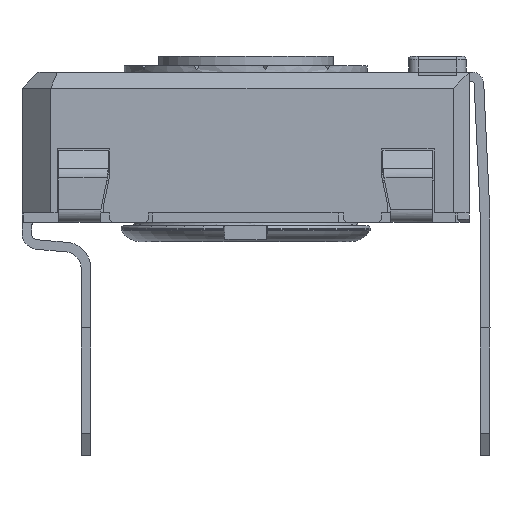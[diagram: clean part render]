
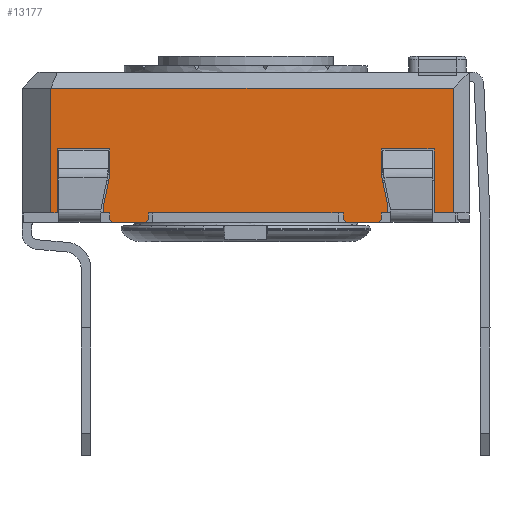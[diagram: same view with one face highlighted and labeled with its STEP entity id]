
A CAD part, left-side view. The second image highlights one B-rep face of the part: STEP entity #13177.
In plain terms, the highlighted planar face has unit normal (-1, 0, 0).
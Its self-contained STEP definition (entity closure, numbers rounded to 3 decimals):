
#1033=FACE_OUTER_BOUND('',#1719,.T.);
#1719=EDGE_LOOP('',(#10521,#10522,#10523,#10524,#10525,#10526,#10527,#10528,
#10529,#10530,#10531,#10532,#10533,#10534,#10535,#10536,#10537,#10538,#10539,
#10540,#10541,#10542,#10543,#10544,#10545,#10546,#10547,#10548));
#2719=LINE('',#20171,#4230);
#2725=LINE('',#20183,#4236);
#2728=LINE('',#20190,#4239);
#2733=LINE('',#20199,#4244);
#2753=LINE('',#20240,#4264);
#2767=LINE('',#20266,#4278);
#2771=LINE('',#20273,#4282);
#2786=LINE('',#20302,#4297);
#2789=LINE('',#20308,#4300);
#2794=LINE('',#20318,#4305);
#2797=LINE('',#20324,#4308);
#2800=LINE('',#20330,#4311);
#2818=LINE('',#20365,#4329);
#2830=LINE('',#20387,#4341);
#2833=LINE('',#20393,#4344);
#2870=LINE('',#20527,#4381);
#2873=LINE('',#20533,#4384);
#2899=LINE('',#20580,#4410);
#2904=LINE('',#20590,#4415);
#2906=LINE('',#20593,#4417);
#3031=LINE('',#20904,#4542);
#3033=LINE('',#20909,#4544);
#3036=LINE('',#20913,#4547);
#3038=LINE('',#20917,#4549);
#3041=LINE('',#20925,#4552);
#3042=LINE('',#20927,#4553);
#3043=LINE('',#20928,#4554);
#3044=LINE('',#20929,#4555);
#4230=VECTOR('',#16149,10.);
#4236=VECTOR('',#16157,10.);
#4239=VECTOR('',#16162,10.);
#4244=VECTOR('',#16169,10.);
#4264=VECTOR('',#16203,10.);
#4278=VECTOR('',#16217,10.);
#4282=VECTOR('',#16221,10.);
#4297=VECTOR('',#16248,10.);
#4300=VECTOR('',#16253,10.);
#4305=VECTOR('',#16260,10.);
#4308=VECTOR('',#16265,10.);
#4311=VECTOR('',#16270,10.);
#4329=VECTOR('',#16290,10.);
#4341=VECTOR('',#16304,10.);
#4344=VECTOR('',#16309,10.);
#4381=VECTOR('',#16390,10.);
#4384=VECTOR('',#16395,10.);
#4410=VECTOR('',#16423,10.);
#4415=VECTOR('',#16430,10.);
#4417=VECTOR('',#16434,10.);
#4542=VECTOR('',#16725,10.);
#4544=VECTOR('',#16729,10.);
#4547=VECTOR('',#16734,10.);
#4549=VECTOR('',#16740,10.);
#4552=VECTOR('',#16751,10.);
#4553=VECTOR('',#16752,10.);
#4554=VECTOR('',#16753,10.);
#4555=VECTOR('',#16754,10.);
#5653=VERTEX_POINT('',#20168);
#5654=VERTEX_POINT('',#20170);
#5658=VERTEX_POINT('',#20180);
#5660=VERTEX_POINT('',#20186);
#5662=VERTEX_POINT('',#20189);
#5665=VERTEX_POINT('',#20197);
#5690=VERTEX_POINT('',#20263);
#5691=VERTEX_POINT('',#20265);
#5693=VERTEX_POINT('',#20270);
#5694=VERTEX_POINT('',#20272);
#5701=VERTEX_POINT('',#20299);
#5703=VERTEX_POINT('',#20305);
#5707=VERTEX_POINT('',#20315);
#5709=VERTEX_POINT('',#20321);
#5712=VERTEX_POINT('',#20328);
#5728=VERTEX_POINT('',#20363);
#5737=VERTEX_POINT('',#20385);
#5739=VERTEX_POINT('',#20391);
#5766=VERTEX_POINT('',#20525);
#5767=VERTEX_POINT('',#20530);
#5787=VERTEX_POINT('',#20577);
#5791=VERTEX_POINT('',#20587);
#5865=VERTEX_POINT('',#20901);
#5866=VERTEX_POINT('',#20903);
#5867=VERTEX_POINT('',#20907);
#5868=VERTEX_POINT('',#20908);
#5869=VERTEX_POINT('',#20924);
#5870=VERTEX_POINT('',#20926);
#7189=EDGE_CURVE('',#5654,#5653,#2719,.T.);
#7195=EDGE_CURVE('',#5653,#5658,#2725,.T.);
#7198=EDGE_CURVE('',#5662,#5660,#2728,.T.);
#7203=EDGE_CURVE('',#5665,#5660,#2733,.T.);
#7223=EDGE_CURVE('',#5658,#5662,#2753,.T.);
#7237=EDGE_CURVE('',#5691,#5690,#2767,.T.);
#7241=EDGE_CURVE('',#5694,#5693,#2771,.T.);
#7257=EDGE_CURVE('',#5690,#5701,#2786,.T.);
#7260=EDGE_CURVE('',#5701,#5703,#2789,.T.);
#7265=EDGE_CURVE('',#5703,#5707,#2794,.T.);
#7268=EDGE_CURVE('',#5707,#5709,#2797,.T.);
#7271=EDGE_CURVE('',#5709,#5712,#2800,.T.);
#7289=EDGE_CURVE('',#5712,#5728,#2818,.T.);
#7301=EDGE_CURVE('',#5737,#5728,#2830,.T.);
#7304=EDGE_CURVE('',#5739,#5737,#2833,.T.);
#7353=EDGE_CURVE('',#5766,#5739,#2870,.T.);
#7356=EDGE_CURVE('',#5766,#5767,#2873,.T.);
#7382=EDGE_CURVE('',#5767,#5787,#2899,.T.);
#7387=EDGE_CURVE('',#5787,#5791,#2904,.T.);
#7389=EDGE_CURVE('',#5791,#5654,#2906,.T.);
#7530=EDGE_CURVE('',#5865,#5866,#3031,.T.);
#7532=EDGE_CURVE('',#5867,#5868,#3033,.T.);
#7535=EDGE_CURVE('',#5691,#5865,#3036,.T.);
#7537=EDGE_CURVE('',#5693,#5868,#3038,.T.);
#7540=EDGE_CURVE('',#5665,#5869,#3041,.T.);
#7541=EDGE_CURVE('',#5870,#5869,#3042,.T.);
#7542=EDGE_CURVE('',#5694,#5870,#3043,.T.);
#7543=EDGE_CURVE('',#5867,#5866,#3044,.T.);
#10521=ORIENTED_EDGE('',*,*,#7195,.T.);
#10522=ORIENTED_EDGE('',*,*,#7223,.T.);
#10523=ORIENTED_EDGE('',*,*,#7198,.T.);
#10524=ORIENTED_EDGE('',*,*,#7203,.F.);
#10525=ORIENTED_EDGE('',*,*,#7540,.T.);
#10526=ORIENTED_EDGE('',*,*,#7541,.F.);
#10527=ORIENTED_EDGE('',*,*,#7542,.F.);
#10528=ORIENTED_EDGE('',*,*,#7241,.T.);
#10529=ORIENTED_EDGE('',*,*,#7537,.T.);
#10530=ORIENTED_EDGE('',*,*,#7532,.F.);
#10531=ORIENTED_EDGE('',*,*,#7543,.T.);
#10532=ORIENTED_EDGE('',*,*,#7530,.F.);
#10533=ORIENTED_EDGE('',*,*,#7535,.F.);
#10534=ORIENTED_EDGE('',*,*,#7237,.T.);
#10535=ORIENTED_EDGE('',*,*,#7257,.T.);
#10536=ORIENTED_EDGE('',*,*,#7260,.T.);
#10537=ORIENTED_EDGE('',*,*,#7265,.T.);
#10538=ORIENTED_EDGE('',*,*,#7268,.T.);
#10539=ORIENTED_EDGE('',*,*,#7271,.T.);
#10540=ORIENTED_EDGE('',*,*,#7289,.T.);
#10541=ORIENTED_EDGE('',*,*,#7301,.F.);
#10542=ORIENTED_EDGE('',*,*,#7304,.F.);
#10543=ORIENTED_EDGE('',*,*,#7353,.F.);
#10544=ORIENTED_EDGE('',*,*,#7356,.T.);
#10545=ORIENTED_EDGE('',*,*,#7382,.T.);
#10546=ORIENTED_EDGE('',*,*,#7387,.T.);
#10547=ORIENTED_EDGE('',*,*,#7389,.T.);
#10548=ORIENTED_EDGE('',*,*,#7189,.T.);
#12345=PLANE('',#14066);
#13177=ADVANCED_FACE('',(#1033),#12345,.T.);
#14066=AXIS2_PLACEMENT_3D('',#20923,#16749,#16750);
#16149=DIRECTION('',(0.,0.208,-0.978));
#16157=DIRECTION('',(0.,0.,-1.));
#16162=DIRECTION('',(0.,0.,-1.));
#16169=DIRECTION('',(0.,0.707,0.707));
#16203=DIRECTION('',(0.,-1.,0.));
#16217=DIRECTION('',(0.,-1.,0.));
#16221=DIRECTION('',(0.,-1.,0.));
#16248=DIRECTION('',(0.,0.,1.));
#16253=DIRECTION('',(0.,0.208,0.978));
#16260=DIRECTION('',(0.,0.,1.));
#16265=DIRECTION('',(0.,-1.,0.));
#16270=DIRECTION('',(0.,0.,-1.));
#16290=DIRECTION('',(0.,-1.,0.));
#16304=DIRECTION('',(0.,0.,-1.));
#16309=DIRECTION('',(0.,-1.,0.));
#16390=DIRECTION('',(0.,0.,1.));
#16395=DIRECTION('',(0.,-1.,0.));
#16423=DIRECTION('',(0.,0.,1.));
#16430=DIRECTION('',(0.,-1.,0.));
#16434=DIRECTION('',(0.,0.,-1.));
#16725=DIRECTION('',(0.,0.707,-0.707));
#16729=DIRECTION('',(0.,0.707,0.707));
#16734=DIRECTION('',(0.,0.,-1.));
#16740=DIRECTION('',(0.,0.,-1.));
#16749=DIRECTION('center_axis',(-1.,0.,0.));
#16750=DIRECTION('ref_axis',(0.,0.,1.));
#16751=DIRECTION('',(0.,-1.,0.));
#16752=DIRECTION('',(0.,0.707,-0.707));
#16753=DIRECTION('',(0.,0.,-1.));
#16754=DIRECTION('',(0.,-1.,0.));
#20168=CARTESIAN_POINT('',(-14.467,1.552,0.235));
#20170=CARTESIAN_POINT('',(-14.467,1.352,1.176));
#20171=CARTESIAN_POINT('',(-14.467,1.228,1.757));
#20180=CARTESIAN_POINT('',(-14.467,1.552,0.));
#20183=CARTESIAN_POINT('',(-14.467,1.552,0.));
#20186=CARTESIAN_POINT('',(-14.467,1.352,-0.2));
#20189=CARTESIAN_POINT('',(-14.467,1.352,0.));
#20190=CARTESIAN_POINT('',(-14.467,1.352,0.));
#20197=CARTESIAN_POINT('',(-14.467,1.252,-0.3));
#20199=CARTESIAN_POINT('',(-14.467,-1.436,-2.988));
#20240=CARTESIAN_POINT('',(-14.467,4.102,0.));
#20263=CARTESIAN_POINT('',(-14.467,-7.348,0.));
#20265=CARTESIAN_POINT('',(-14.467,-7.148,0.));
#20266=CARTESIAN_POINT('',(-14.467,4.102,0.));
#20270=CARTESIAN_POINT('',(-14.467,-5.948,0.));
#20272=CARTESIAN_POINT('',(-14.467,0.152,0.));
#20273=CARTESIAN_POINT('',(-14.467,4.102,0.));
#20299=CARTESIAN_POINT('',(-14.467,-7.348,0.235));
#20302=CARTESIAN_POINT('',(-14.467,-7.348,0.118));
#20305=CARTESIAN_POINT('',(-14.467,-7.148,1.176));
#20308=CARTESIAN_POINT('',(-14.467,-7.453,-0.254));
#20315=CARTESIAN_POINT('',(-14.467,-7.148,2.));
#20318=CARTESIAN_POINT('',(-14.467,-7.148,0.588));
#20321=CARTESIAN_POINT('',(-14.467,-8.798,2.));
#20324=CARTESIAN_POINT('',(-14.467,-8.523,2.));
#20328=CARTESIAN_POINT('',(-14.467,-8.798,0.));
#20330=CARTESIAN_POINT('',(-14.467,-8.798,0.));
#20363=CARTESIAN_POINT('',(-14.467,-9.398,0.));
#20365=CARTESIAN_POINT('',(-14.467,-9.595,0.));
#20385=CARTESIAN_POINT('',(-14.467,-9.398,3.9));
#20387=CARTESIAN_POINT('',(-14.467,-9.398,0.));
#20391=CARTESIAN_POINT('',(-14.467,3.202,3.9));
#20393=CARTESIAN_POINT('',(-14.467,-6.398,3.9));
#20525=CARTESIAN_POINT('',(-14.467,3.202,0.));
#20527=CARTESIAN_POINT('',(-14.467,3.202,0.));
#20530=CARTESIAN_POINT('',(-14.467,3.002,0.));
#20533=CARTESIAN_POINT('',(-14.467,-2.985,0.));
#20577=CARTESIAN_POINT('',(-14.467,3.002,2.));
#20580=CARTESIAN_POINT('',(-14.467,3.002,0.));
#20587=CARTESIAN_POINT('',(-14.467,1.352,2.));
#20590=CARTESIAN_POINT('',(-14.467,-3.448,2.));
#20593=CARTESIAN_POINT('',(-14.467,1.352,1.));
#20901=CARTESIAN_POINT('',(-14.467,-7.148,-0.2));
#20903=CARTESIAN_POINT('',(-14.467,-7.048,-0.3));
#20904=CARTESIAN_POINT('',(-14.467,-7.861,0.513));
#20907=CARTESIAN_POINT('',(-14.467,-6.048,-0.3));
#20908=CARTESIAN_POINT('',(-14.467,-5.948,-0.2));
#20909=CARTESIAN_POINT('',(-14.467,-6.911,-1.163));
#20913=CARTESIAN_POINT('',(-14.467,-7.148,0.));
#20917=CARTESIAN_POINT('',(-14.467,-5.948,0.));
#20923=CARTESIAN_POINT('Origin',(-14.467,-9.898,0.));
#20924=CARTESIAN_POINT('',(-14.467,0.252,-0.3));
#20925=CARTESIAN_POINT('',(-14.467,0.152,-0.3));
#20926=CARTESIAN_POINT('',(-14.467,0.152,-0.2));
#20927=CARTESIAN_POINT('',(-14.467,-2.386,2.338));
#20928=CARTESIAN_POINT('',(-14.467,0.152,0.));
#20929=CARTESIAN_POINT('',(-14.467,-7.148,-0.3));
